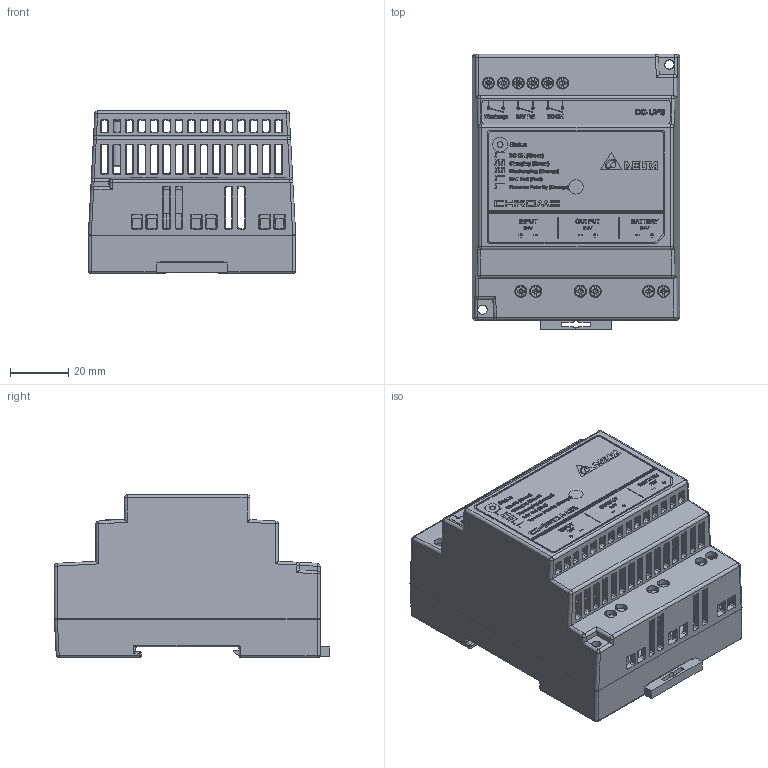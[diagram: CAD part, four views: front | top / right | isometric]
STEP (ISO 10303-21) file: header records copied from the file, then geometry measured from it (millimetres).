
FILE_DESCRIPTION((''),'2;1');
FILE_NAME('DRU-24V10ACZ_ASM','2018-05-08T',('warud'),(''),'PRO/ENGINEER BY PARAMETRIC TECHNOLOGY CORPORATION, 2010180','PRO/ENGINEER BY PARAMETRIC TECHNOLOGY CORPORATION, 2010180','');
FILE_SCHEMA(('CONFIG_CONTROL_DESIGN','SHAPE_APPEARANCE_LAYERS_GROUPS'));
Products named in the file (15): 3306254900; 330237780101_A_BODY; 330237780101_A_LENS; 330237780101_ASM; PWB_MAIN; 307301257W_A_2; 307301257W_ASM; 307301247W; EE_LED-3-_2301712506; LED_ASSY_ASM; ASSY_PWB_ASM; 3471801700_CLIP-BOM; 3268768200; 3268768100; DRU-24V10ACZ_ASM
Assembly tree (18 placements, depth 4):
  DRU-24V10ACZ_ASM
    3306254900
    330237780101_ASM
      330237780101_A_BODY
      330237780101_A_LENS
    ASSY_PWB_ASM
      PWB_MAIN
      307301257W_ASM
        307301257W_A_2  x3
      307301247W  x3
      LED_ASSY_ASM
        EE_LED-3-_2301712506
    3471801700_CLIP-BOM
    3268768200
    3268768100
Bounding box: 71 x 94.3 x 55.61 mm (x, y, z)
Volume: 69980.8 mm3; surface area: 84689.9 mm2
Topology: 26 solids, 26 shells, 5443 faces, 15292 edges, 10153 vertices
Faces by surface type: plane 2622, extrusion 1808, cylinder 709, cone 121, bspline 96, sphere 48, torus 39
Entity records: 197191 total; most frequent: CARTESIAN_POINT 56090, ORIENTED_EDGE 27368, DIRECTION 17265, EDGE_CURVE 13684, VECTOR 9895, VERTEX_POINT 9129, LINE 8087, PRESENTATION_STYLE_ASSIGNMENT 6996
